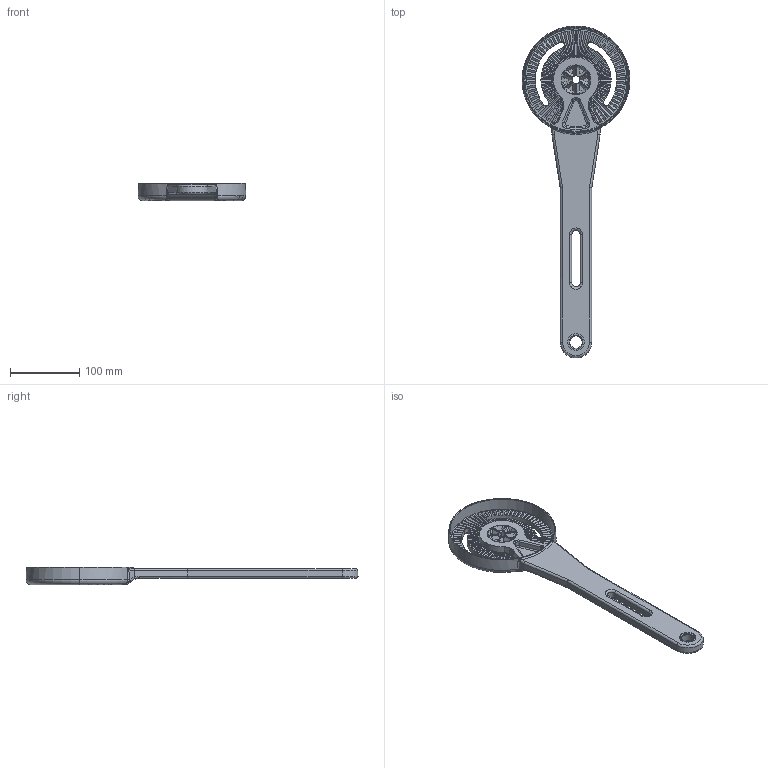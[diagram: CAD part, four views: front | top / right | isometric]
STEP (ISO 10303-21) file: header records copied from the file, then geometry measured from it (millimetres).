
FILE_DESCRIPTION (( 'STEP AP214' ), '1' );
FILE_NAME ('10118V000_90056_Antriebsarm_L380mm_Index_5.STEP', '2014-11-04T14:02:49', ( 'Admin' ), ( '' ), 'SwSTEP 2.0', 'SolidWorks 2014', '' );
FILE_SCHEMA (( 'AUTOMOTIVE_DESIGN' ));
Length unit declared in the file: millimetre
Products named in the file (1): 10118V000_90056_Antriebsarm_L380mm_Index_5
Bounding box: 156.22 x 481.1 x 25 mm (x, y, z)
Volume: 383805.1 mm3; surface area: 101452.2 mm2
Topology: 1 solids, 1 shells, 704 faces, 1896 edges, 1191 vertices
Faces by surface type: plane 290, cylinder 169, bspline 126, torus 69, cone 49, sphere 1
Entity records: 27442 total; most frequent: CARTESIAN_POINT 12461, ORIENTED_EDGE 3760, DIRECTION 2395, EDGE_CURVE 1880, VERTEX_POINT 1191, AXIS2_PLACEMENT_3D 878, EDGE_LOOP 727, ADVANCED_FACE 704
